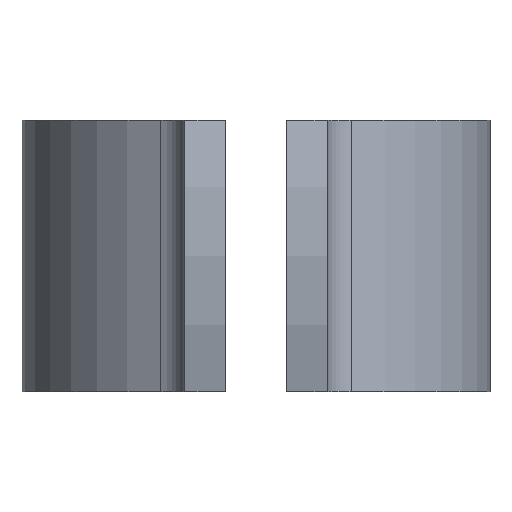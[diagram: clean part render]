
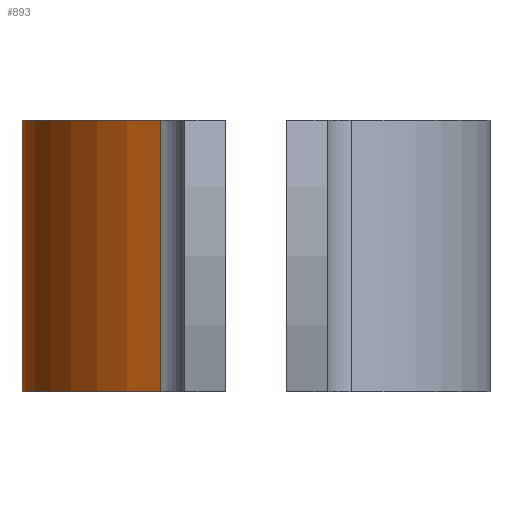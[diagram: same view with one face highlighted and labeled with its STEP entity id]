
A CAD part, left-side view. The second image highlights one B-rep face of the part: STEP entity #893.
In plain terms, the highlighted cylindrical face has radius 34.5 mm (diameter 69 mm), a partial arc.
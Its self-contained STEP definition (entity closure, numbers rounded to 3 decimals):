
#28 = EDGE_CURVE ( 'NONE', #158, #656, #205, .T. ) ;
#38 = CARTESIAN_POINT ( 'NONE',  ( 31.507, 14.056, -40. ) ) ;
#84 = VERTEX_POINT ( 'NONE', #796 ) ;
#108 = DIRECTION ( 'NONE',  ( 0., 0., 1. ) ) ;
#112 = VECTOR ( 'NONE', #696, 1000. ) ;
#113 = DIRECTION ( 'NONE',  ( 0., 0., 1. ) ) ;
#132 = EDGE_CURVE ( 'NONE', #656, #884, #138, .T. ) ;
#138 = LINE ( 'NONE', #316, #358 ) ;
#148 = ORIENTED_EDGE ( 'NONE', *, *, #957, .F. ) ;
#158 = VERTEX_POINT ( 'NONE', #38 ) ;
#205 = CIRCLE ( 'NONE', #497, 34.5 ) ;
#211 = LINE ( 'NONE', #978, #112 ) ;
#316 = CARTESIAN_POINT ( 'NONE',  ( -31.507, 14.056, -40. ) ) ;
#358 = VECTOR ( 'NONE', #108, 1000. ) ;
#379 = DIRECTION ( 'NONE',  ( 0., 0., 1. ) ) ;
#422 = ORIENTED_EDGE ( 'NONE', *, *, #473, .F. ) ;
#473 = EDGE_CURVE ( 'NONE', #84, #884, #904, .T. ) ;
#497 = AXIS2_PLACEMENT_3D ( 'NONE', #748, #379, #767 ) ;
#536 = CARTESIAN_POINT ( 'NONE',  ( -31.507, 14.056, 0. ) ) ;
#656 = VERTEX_POINT ( 'NONE', #897 ) ;
#696 = DIRECTION ( 'NONE',  ( 0., 0., 1. ) ) ;
#734 = CARTESIAN_POINT ( 'NONE',  ( 0., 0., -40. ) ) ;
#748 = CARTESIAN_POINT ( 'NONE',  ( 0., 0., -40. ) ) ;
#757 = DIRECTION ( 'NONE',  ( 0., 0., 1. ) ) ;
#767 = DIRECTION ( 'NONE',  ( -1., 0., 0. ) ) ;
#796 = CARTESIAN_POINT ( 'NONE',  ( 31.507, 14.056, 0. ) ) ;
#863 = CYLINDRICAL_SURFACE ( 'NONE', #1036, 34.5 ) ;
#881 = CARTESIAN_POINT ( 'NONE',  ( 0., 0., 0. ) ) ;
#884 = VERTEX_POINT ( 'NONE', #536 ) ;
#893 = ADVANCED_FACE ( 'NONE', ( #1217 ), #863, .T. ) ;
#897 = CARTESIAN_POINT ( 'NONE',  ( -31.507, 14.056, -40. ) ) ;
#904 = CIRCLE ( 'NONE', #1066, 34.5 ) ;
#957 = EDGE_CURVE ( 'NONE', #158, #84, #211, .T. ) ;
#978 = CARTESIAN_POINT ( 'NONE',  ( 31.507, 14.056, -40. ) ) ;
#997 = ORIENTED_EDGE ( 'NONE', *, *, #28, .T. ) ;
#1005 = ORIENTED_EDGE ( 'NONE', *, *, #132, .T. ) ;
#1028 = DIRECTION ( 'NONE',  ( 1., 0., 0. ) ) ;
#1036 = AXIS2_PLACEMENT_3D ( 'NONE', #734, #757, #1028 ) ;
#1066 = AXIS2_PLACEMENT_3D ( 'NONE', #881, #113, #1165 ) ;
#1165 = DIRECTION ( 'NONE',  ( -1., 0., 0. ) ) ;
#1181 = EDGE_LOOP ( 'NONE', ( #422, #148, #997, #1005 ) ) ;
#1217 = FACE_OUTER_BOUND ( 'NONE', #1181, .T. ) ;
